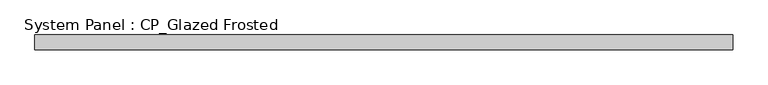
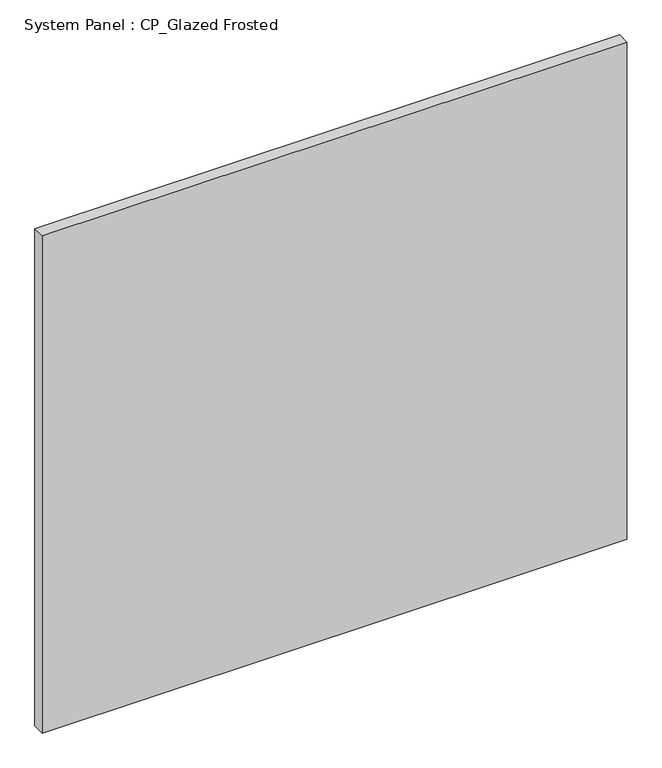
"""IFC4 building model written with IfcOpenShell, lengths in millimetres: plate geometry, System Panel : CP_Glazed Frosted."""

from ifc_helpers import new_model, si_unit, origin, origin_with_axes, place, context, project, spatial, polyline, outline, extrude, source, transform, mapped, element, save


def system_panel_cp_glazed_frosted_432cb54c(model_context):
    return source(origin(), model_context, "Body", "SweptSolid", [
        extrude(outline(polyline([(596.503125, 19.05), (-596.503125, 19.05), (-596.503125, 44.45), (596.503125, 44.45), (596.503125, 19.05)])), origin_with_axes(), (0.0, 0.0, 1.0), 1073.15),
    ])


if __name__ == "__main__":
    model = new_model("IFC4")
    model_context = context("Model", 3, world=origin())
    ifc_project = project(units=[si_unit("LENGTHUNIT", "METRE", prefix="MILLI")], contexts=[model_context])
    site = spatial("IfcSite", under=ifc_project)
    building = spatial("IfcBuilding", under=site)
    placement = place(None, origin())
    system_panel_cp_glazed_frosted_shape = system_panel_cp_glazed_frosted_432cb54c(model_context)
    element("IfcPlate", 1, ObjectType="System Panel : CP_Glazed Frosted", at=placement, inside=building, context=model_context, shape_type="MappedRepresentation", body=[
        mapped(system_panel_cp_glazed_frosted_shape, transform((0.0, 0.0, 0.0), x_axis=(1.0, 0.0, 0.0), y_axis=(0.0, 1.0, 0.0), z_axis=(0.0, 0.0, 1.0))),
    ])
    save(model, "model.ifc")
